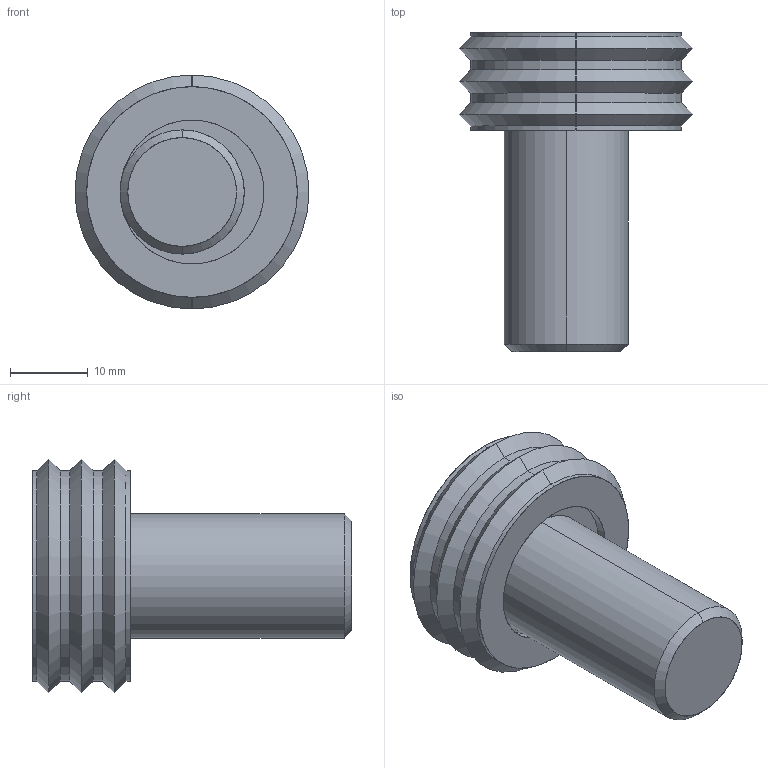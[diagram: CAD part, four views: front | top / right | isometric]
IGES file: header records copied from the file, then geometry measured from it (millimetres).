
Start section: SolidWorks IGES file using analytic representation for surfaces
Global section: file name: E:\Pending\12120_v2\12120_v2_20171107_IGES\12120.W0030.igs; native system: SolidWorks 2017; preprocessor: SolidWorks 2017; author: liam_; date: 171214.131823; units: millimetre
Bounding box: 30.15 x 41.2 x 30.15 mm (x, y, z)
Surface area: 6075.4 mm2 (no closed solid volume)
Topology: 0 solids, 0 shells, 45 faces, 484 edges, 484 vertices
Faces by surface type: revolution 32, bspline 13
